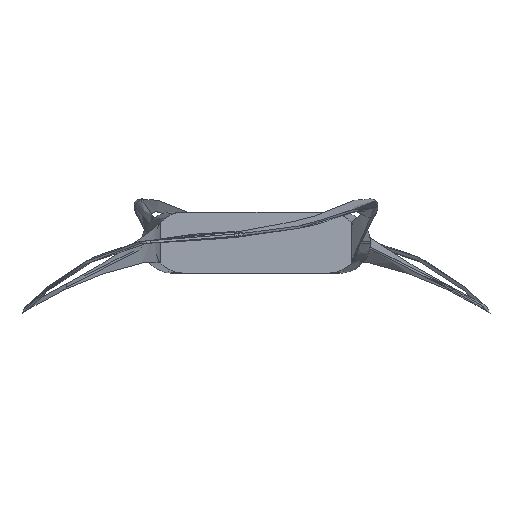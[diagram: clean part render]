
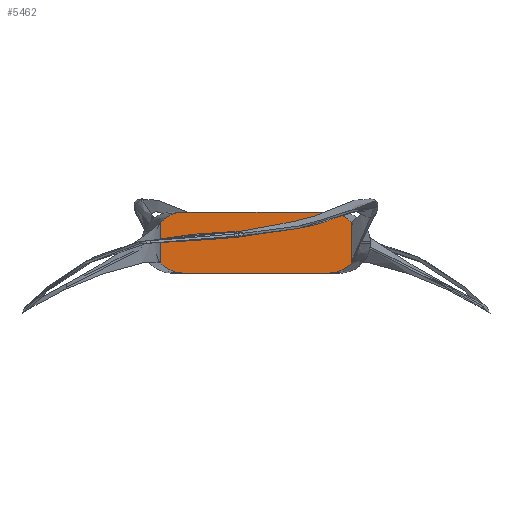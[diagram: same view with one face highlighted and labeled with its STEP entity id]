
A CAD part, left-side view. The second image highlights one B-rep face of the part: STEP entity #5462.
In plain terms, the highlighted planar face has unit normal (-1, 0, 0).
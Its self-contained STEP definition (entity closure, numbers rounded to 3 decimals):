
#327 = B_SPLINE_CURVE_WITH_KNOTS ( 'NONE', 5,
 ( #12688, #2965, #7829, #584, #7667, #5434 ),
 .UNSPECIFIED., .F., .F.,
 ( 6, 6 ),
 ( 0., 0.007 ),
 .UNSPECIFIED. ) ;
#534 = CARTESIAN_POINT ( 'NONE',  ( -90., -24.994, -59.75 ) ) ;
#584 = CARTESIAN_POINT ( 'NONE',  ( -90., 22.984, -9.139 ) ) ;
#638 = VERTEX_POINT ( 'NONE', #3495 ) ;
#735 = CARTESIAN_POINT ( 'NONE',  ( -90., 19., -10. ) ) ;
#888 = PLANE ( 'NONE',  #10278 ) ;
#1644 = VERTEX_POINT ( 'NONE', #4455 ) ;
#1700 = CARTESIAN_POINT ( 'NONE',  ( -90., -21.711, -9.714 ) ) ;
#1741 = EDGE_CURVE ( 'NONE', #12065, #13885, #5649, .T. ) ;
#1751 = EDGE_LOOP ( 'NONE', ( #12161, #9921, #8623, #4006, #14043, #10223, #11357, #12660 ) ) ;
#2004 = CARTESIAN_POINT ( 'NONE',  ( -90., -24.994, -7.298 ) ) ;
#2159 = CARTESIAN_POINT ( 'NONE',  ( -90., -24.994, -59.75 ) ) ;
#2287 = VERTEX_POINT ( 'NONE', #9323 ) ;
#2404 = DIRECTION ( 'NONE',  ( 0., 0., 1. ) ) ;
#2649 = CARTESIAN_POINT ( 'NONE',  ( -90., -24.994, -7.298 ) ) ;
#2735 = VECTOR ( 'NONE', #2404, 1000. ) ;
#2965 = CARTESIAN_POINT ( 'NONE',  ( -90., 20.355, -10. ) ) ;
#3340 = CARTESIAN_POINT ( 'NONE',  ( -90., -24.097, 4.313 ) ) ;
#3495 = CARTESIAN_POINT ( 'NONE',  ( -90., -24.994, 3.298 ) ) ;
#3512 = LINE ( 'NONE', #8290, #14854 ) ;
#4006 = ORIENTED_EDGE ( 'NONE', *, *, #1741, .F. ) ;
#4406 = DIRECTION ( 'NONE',  ( 0., 1., 0. ) ) ;
#4455 = CARTESIAN_POINT ( 'NONE',  ( -90., 24.994, -7.298 ) ) ;
#4617 = CARTESIAN_POINT ( 'NONE',  ( -90., -24.994, 3.298 ) ) ;
#4676 = EDGE_CURVE ( 'NONE', #13747, #12065, #6503, .T. ) ;
#5434 = CARTESIAN_POINT ( 'NONE',  ( -90., 24.994, -7.298 ) ) ;
#5462 = ADVANCED_FACE ( 'NONE', ( #11723 ), #888, .F. ) ;
#5649 = LINE ( 'NONE', #10507, #9761 ) ;
#6484 = EDGE_CURVE ( 'NONE', #13885, #1644, #327, .T. ) ;
#6503 = B_SPLINE_CURVE_WITH_KNOTS ( 'NONE', 5,
 ( #2649, #13803, #11415, #1700, #8778, #13883 ),
 .UNSPECIFIED., .F., .F.,
 ( 6, 6 ),
 ( 0., 0.007 ),
 .UNSPECIFIED. ) ;
#6858 = CARTESIAN_POINT ( 'NONE',  ( -90., 24.097, 4.313 ) ) ;
#7316 = EDGE_CURVE ( 'NONE', #13200, #638, #8414, .T. ) ;
#7667 = CARTESIAN_POINT ( 'NONE',  ( -90., 24.097, -8.313 ) ) ;
#7670 = EDGE_CURVE ( 'NONE', #13200, #2287, #3512, .T. ) ;
#7809 = VERTEX_POINT ( 'NONE', #14418 ) ;
#7818 = CARTESIAN_POINT ( 'NONE',  ( -90., 21.711, 5.714 ) ) ;
#7829 = CARTESIAN_POINT ( 'NONE',  ( -90., 21.711, -9.714 ) ) ;
#7970 = CARTESIAN_POINT ( 'NONE',  ( -90., -22.984, 5.139 ) ) ;
#7977 = DIRECTION ( 'NONE',  ( 1., 0., 0. ) ) ;
#8290 = CARTESIAN_POINT ( 'NONE',  ( -90., 0., 6. ) ) ;
#8414 = B_SPLINE_CURVE_WITH_KNOTS ( 'NONE', 5,
 ( #10516, #14249, #11636, #7970, #3340, #4617 ),
 .UNSPECIFIED., .F., .F.,
 ( 6, 6 ),
 ( 0., 0.007 ),
 .UNSPECIFIED. ) ;
#8623 = ORIENTED_EDGE ( 'NONE', *, *, #6484, .F. ) ;
#8778 = CARTESIAN_POINT ( 'NONE',  ( -90., -20.355, -10. ) ) ;
#8785 = B_SPLINE_CURVE_WITH_KNOTS ( 'NONE', 5,
 ( #9165, #6858, #15062, #7818, #12840, #10446 ),
 .UNSPECIFIED., .F., .F.,
 ( 6, 6 ),
 ( 0., 0.007 ),
 .UNSPECIFIED. ) ;
#9165 = CARTESIAN_POINT ( 'NONE',  ( -90., 24.994, 3.298 ) ) ;
#9323 = CARTESIAN_POINT ( 'NONE',  ( -90., 19., 6. ) ) ;
#9761 = VECTOR ( 'NONE', #12973, 1000. ) ;
#9921 = ORIENTED_EDGE ( 'NONE', *, *, #14790, .F. ) ;
#10223 = ORIENTED_EDGE ( 'NONE', *, *, #10829, .F. ) ;
#10278 = AXIS2_PLACEMENT_3D ( 'NONE', #2159, #7977, #10286 ) ;
#10286 = DIRECTION ( 'NONE',  ( 0., 1., 0. ) ) ;
#10387 = CARTESIAN_POINT ( 'NONE',  ( -90., -19., 6. ) ) ;
#10406 = DIRECTION ( 'NONE',  ( 0., 0., -1. ) ) ;
#10446 = CARTESIAN_POINT ( 'NONE',  ( -90., 19., 6. ) ) ;
#10507 = CARTESIAN_POINT ( 'NONE',  ( -90., -24.994, -10. ) ) ;
#10516 = CARTESIAN_POINT ( 'NONE',  ( -90., -19., 6. ) ) ;
#10699 = LINE ( 'NONE', #15553, #2735 ) ;
#10829 = EDGE_CURVE ( 'NONE', #638, #13747, #12638, .T. ) ;
#10965 = CARTESIAN_POINT ( 'NONE',  ( -90., -19., -10. ) ) ;
#11357 = ORIENTED_EDGE ( 'NONE', *, *, #7316, .F. ) ;
#11415 = CARTESIAN_POINT ( 'NONE',  ( -90., -22.984, -9.139 ) ) ;
#11636 = CARTESIAN_POINT ( 'NONE',  ( -90., -21.711, 5.714 ) ) ;
#11723 = FACE_OUTER_BOUND ( 'NONE', #1751, .T. ) ;
#11919 = VECTOR ( 'NONE', #10406, 1000. ) ;
#12065 = VERTEX_POINT ( 'NONE', #10965 ) ;
#12161 = ORIENTED_EDGE ( 'NONE', *, *, #13675, .F. ) ;
#12638 = LINE ( 'NONE', #534, #11919 ) ;
#12660 = ORIENTED_EDGE ( 'NONE', *, *, #7670, .T. ) ;
#12688 = CARTESIAN_POINT ( 'NONE',  ( -90., 19., -10. ) ) ;
#12840 = CARTESIAN_POINT ( 'NONE',  ( -90., 20.355, 6. ) ) ;
#12973 = DIRECTION ( 'NONE',  ( 0., 1., 0. ) ) ;
#13200 = VERTEX_POINT ( 'NONE', #10387 ) ;
#13675 = EDGE_CURVE ( 'NONE', #7809, #2287, #8785, .T. ) ;
#13747 = VERTEX_POINT ( 'NONE', #2004 ) ;
#13803 = CARTESIAN_POINT ( 'NONE',  ( -90., -24.097, -8.313 ) ) ;
#13883 = CARTESIAN_POINT ( 'NONE',  ( -90., -19., -10. ) ) ;
#13885 = VERTEX_POINT ( 'NONE', #735 ) ;
#14043 = ORIENTED_EDGE ( 'NONE', *, *, #4676, .F. ) ;
#14249 = CARTESIAN_POINT ( 'NONE',  ( -90., -20.355, 6. ) ) ;
#14418 = CARTESIAN_POINT ( 'NONE',  ( -90., 24.994, 3.298 ) ) ;
#14790 = EDGE_CURVE ( 'NONE', #1644, #7809, #10699, .T. ) ;
#14854 = VECTOR ( 'NONE', #4406, 1000. ) ;
#15062 = CARTESIAN_POINT ( 'NONE',  ( -90., 22.984, 5.139 ) ) ;
#15553 = CARTESIAN_POINT ( 'NONE',  ( -90., 24.994, -59.75 ) ) ;
